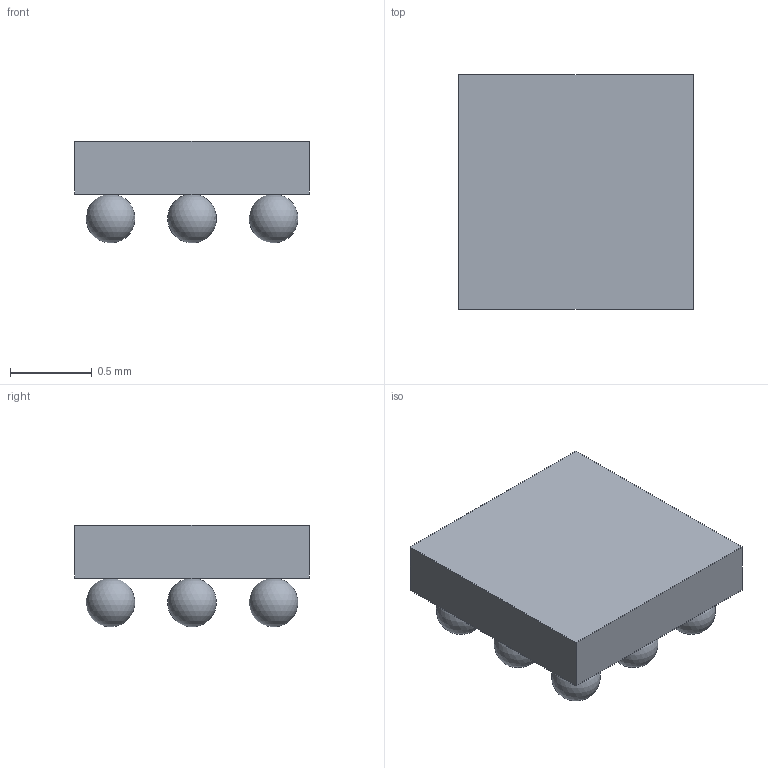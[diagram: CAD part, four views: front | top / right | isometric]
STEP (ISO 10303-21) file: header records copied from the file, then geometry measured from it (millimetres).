
FILE_DESCRIPTION(('Open CASCADE Model'),'2;1');
FILE_NAME('TI_DRV2605L_DSBGA9_YZF','2026-09-04T00:01:45',('Author'),( 'Open CASCADE'),'Open CASCADE STEP processor 7.9','build123d', 'Unknown');
FILE_SCHEMA(('AUTOMOTIVE_DESIGN { 1 0 10303 214 1 1 1 1 }'));
Length unit declared in the file: millimetre
Products named in the file (3): TI_DRV2605L_DSBGA9_YZF; die; balls_9x
Assembly tree (2 placements, depth 2):
  TI_DRV2605L_DSBGA9_YZF
    die
    balls_9x
Bounding box: 1.44 x 1.44 x 0.62 mm (x, y, z)
Volume: 0.8 mm3; surface area: 8.6 mm2
Topology: 10 solids, 10 shells, 15 faces, 39 edges, 26 vertices
Faces by surface type: sphere 9, plane 6
Entity records: 310 total; most frequent: DIRECTION 48, CARTESIAN_POINT 47, ORIENTED_EDGE 24, AXIS2_PLACEMENT_3D 18, VERTEX_POINT 17, ADVANCED_FACE 15, FACE_BOUND 15, EDGE_CURVE 12
